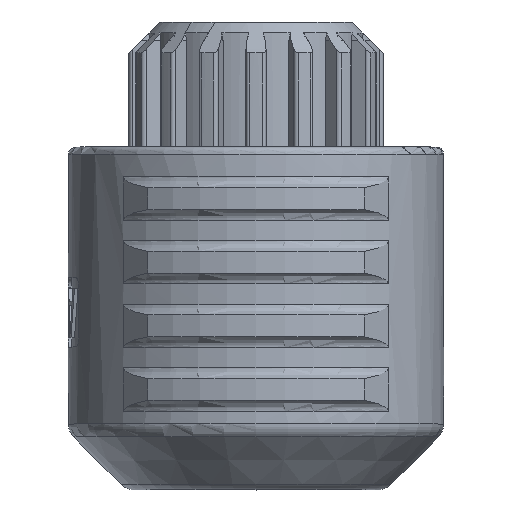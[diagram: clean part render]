
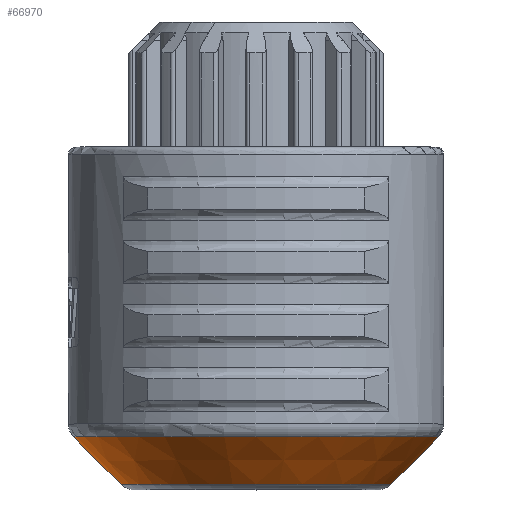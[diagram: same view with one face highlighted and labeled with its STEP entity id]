
A CAD part, top view. The second image highlights one B-rep face of the part: STEP entity #66970.
In plain terms, the highlighted conical face has half-angle 45 degrees and reference radius 8.725 mm.
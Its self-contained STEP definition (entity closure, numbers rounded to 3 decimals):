
#15210=DIRECTION('',(0.707,0.707,0.));
#15211=VECTOR('',#15210,3.697);
#15212=CARTESIAN_POINT('',(7.418,-10.327,
20.));
#15213=LINE('',#15212,#15211);
#15612=CARTESIAN_POINT('',(0.,-7.713,20.));
#15613=DIRECTION('',(0.,1.,0.));
#15614=DIRECTION('',(-1.,0.,0.));
#15615=AXIS2_PLACEMENT_3D('',#15612,#15613,#15614);
#15617=CARTESIAN_POINT('',(0.,-10.327,20.));
#15618=DIRECTION('',(0.,-1.,0.));
#15619=DIRECTION('',(1.,0.,0.));
#15620=AXIS2_PLACEMENT_3D('',#15617,#15618,#15619);
#15622=DIRECTION('',(-0.707,0.707,0.));
#15623=VECTOR('',#15622,3.697);
#15624=CARTESIAN_POINT('',(-7.418,-10.327,
20.));
#15625=LINE('',#15624,#15623);
#48263=CARTESIAN_POINT('',(-7.418,-10.327,
20.));
#48264=CARTESIAN_POINT('',(-10.032,-7.713,
20.));
#48265=VERTEX_POINT('',#48263);
#48266=VERTEX_POINT('',#48264);
#48267=CARTESIAN_POINT('',(7.418,-10.327,
20.));
#48268=CARTESIAN_POINT('',(10.032,-7.713,20.));
#48269=VERTEX_POINT('',#48267);
#48270=VERTEX_POINT('',#48268);
#66958=CARTESIAN_POINT('',(0.,-9.02,20.));
#66959=DIRECTION('',(0.,1.,0.));
#66960=DIRECTION('',(1.,0.,0.));
#66961=AXIS2_PLACEMENT_3D('',#66958,#66959,#66960);
#66962=CONICAL_SURFACE('',#66961,8.725,45.);
#66963=ORIENTED_EDGE('',*,*,#66945,.T.);
#66964=ORIENTED_EDGE('',*,*,#66242,.F.);
#66966=ORIENTED_EDGE('',*,*,#66965,.T.);
#66967=ORIENTED_EDGE('',*,*,#66238,.T.);
#66968=EDGE_LOOP('',(#66963,#66964,#66966,#66967));
#66969=FACE_OUTER_BOUND('',#66968,.F.);
#66970=ADVANCED_FACE('',(#66969),#66962,.T.);
#15616=CIRCLE('',#15615,10.032);
#15621=CIRCLE('',#15620,7.418);
#66238=EDGE_CURVE('',#48265,#48266,#15625,.T.);
#66242=EDGE_CURVE('',#48269,#48270,#15213,.T.);
#66945=EDGE_CURVE('',#48266,#48270,#15616,.T.);
#66965=EDGE_CURVE('',#48269,#48265,#15621,.T.);
